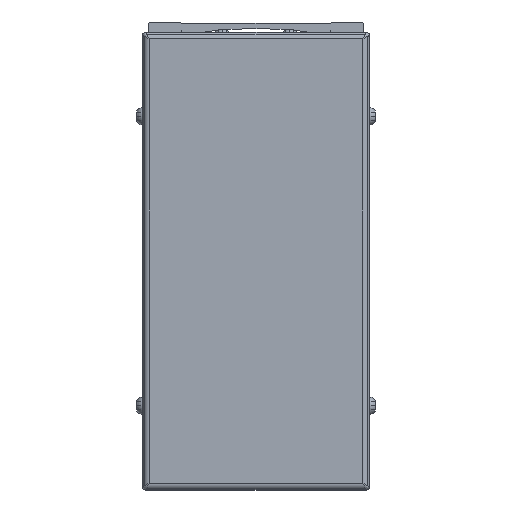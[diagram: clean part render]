
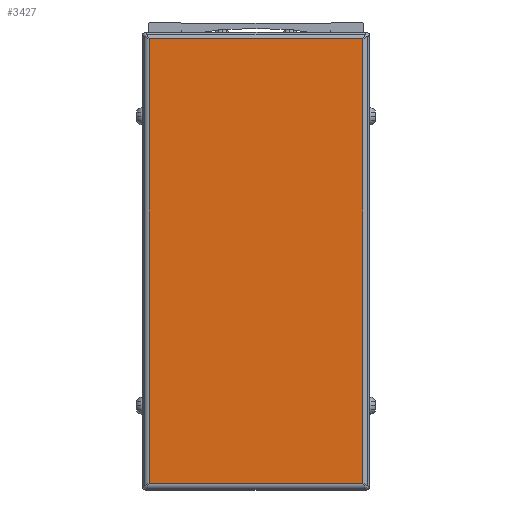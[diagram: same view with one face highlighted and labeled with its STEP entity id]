
A CAD part, front view. The second image highlights one B-rep face of the part: STEP entity #3427.
In plain terms, the highlighted planar face has unit normal (0, -1, 0).
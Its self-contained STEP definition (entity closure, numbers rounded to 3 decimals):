
#3427=ADVANCED_FACE('',(#7877),#7878,.T.);
#7877=FACE_OUTER_BOUND('',#14109,.T.);
#7878=PLANE('',#14110);
#14109=EDGE_LOOP('',(#23906,#23907,#23908,#23909));
#14110=AXIS2_PLACEMENT_3D('',#23910,#23911,#23912);
#23906=ORIENTED_EDGE('',*,*,#37944,.F.);
#23907=ORIENTED_EDGE('',*,*,#37945,.F.);
#23908=ORIENTED_EDGE('',*,*,#37946,.F.);
#23909=ORIENTED_EDGE('',*,*,#37125,.F.);
#23910=CARTESIAN_POINT('',(300.,-94.,-44.));
#23911=DIRECTION('',(0.,-1.0,0.));
#23912=DIRECTION('',(0.,0.,1.0));
#37125=EDGE_CURVE('',#45013,#45277,#45278,.T.);
#37944=EDGE_CURVE('',#46533,#45013,#46534,.T.);
#37945=EDGE_CURVE('',#46535,#46533,#46536,.T.);
#37946=EDGE_CURVE('',#45277,#46535,#46537,.T.);
#45013=VERTEX_POINT('',#56090);
#45277=VERTEX_POINT('',#56461);
#45278=LINE('',#56462,#56463);
#46533=VERTEX_POINT('',#58199);
#46534=LINE('',#58200,#58201);
#46535=VERTEX_POINT('',#58202);
#46536=LINE('',#58203,#58204);
#46537=LINE('',#58205,#58206);
#56090=CARTESIAN_POINT('',(331.7,-94.,22.));
#56461=CARTESIAN_POINT('',(331.7,-94.,-110.));
#56462=CARTESIAN_POINT('',(331.7,-94.,-44.));
#56463=VECTOR('',#67129,10.0);
#58199=CARTESIAN_POINT('',(268.3,-94.,22.));
#58200=CARTESIAN_POINT('',(300.,-94.,22.));
#58201=VECTOR('',#68156,10.0);
#58202=CARTESIAN_POINT('',(268.3,-94.,-110.));
#58203=CARTESIAN_POINT('',(268.3,-94.,-44.));
#58204=VECTOR('',#68157,10.0);
#58205=CARTESIAN_POINT('',(300.,-94.,-110.));
#58206=VECTOR('',#68158,10.0);
#67129=DIRECTION('',(0.,0.,-1.0));
#68156=DIRECTION('',(1.0,0.,0.));
#68157=DIRECTION('',(0.,0.,1.0));
#68158=DIRECTION('',(-1.0,0.,0.));
